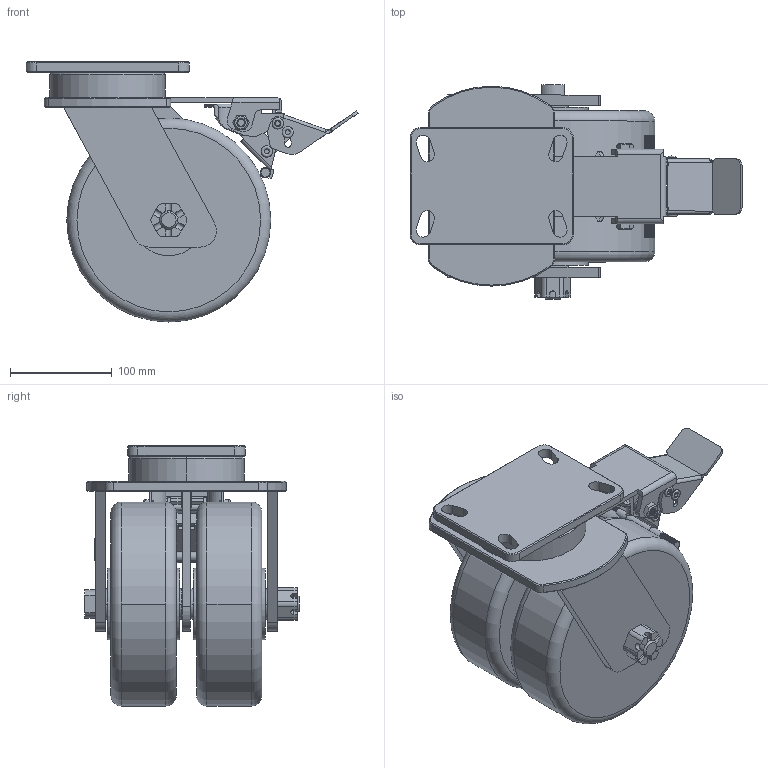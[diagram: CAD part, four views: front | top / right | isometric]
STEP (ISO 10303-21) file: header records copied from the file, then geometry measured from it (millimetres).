
FILE_DESCRIPTION(/* description */ (''),/* implementation_level */ '2;1');
FILE_NAME(/* name */ '40B23_8_F.stp',/* time_stamp */ '2022-08-29T10:55:45+08:00',/* author */ (''),/* organization */ (''),/* preprocessor_version */ 'ST-DEVELOPER v14',/* originating_system */ 'SIEMENS PLM Software NX 8.0',/* authorisation */ '');
FILE_SCHEMA (('AUTOMOTIVE_DESIGN { 1 0 10303 214 3 1 1 1 }'));
Length unit declared in the file: millimetre
Products named in the file (1): 40B23_8_F
Bounding box: 325.51 x 210 x 255 mm (x, y, z)
Volume: 5073692.8 mm3; surface area: 433552.7 mm2
Topology: 1 solids, 4 shells, 1219 faces, 3068 edges, 1899 vertices
Faces by surface type: plane 956, cylinder 199, cone 33, torus 17, bspline 9, extrusion 4, sphere 1
Full cylindrical faces by diameter (mm): 5 x3, 5.9 x1, 6 x2, 6.2 x3, 6.3 x4, 8.2 x6, 8.5 x2, 10 x4, 16 x2, 39 x1, 70 x4
Entity records: 37559 total; most frequent: CARTESIAN_POINT 8914, ORIENTED_EDGE 5984, DIRECTION 5715, EDGE_CURVE 2992, VECTOR 2039, LINE 2035, VERTEX_POINT 1877, AXIS2_PLACEMENT_3D 1838
